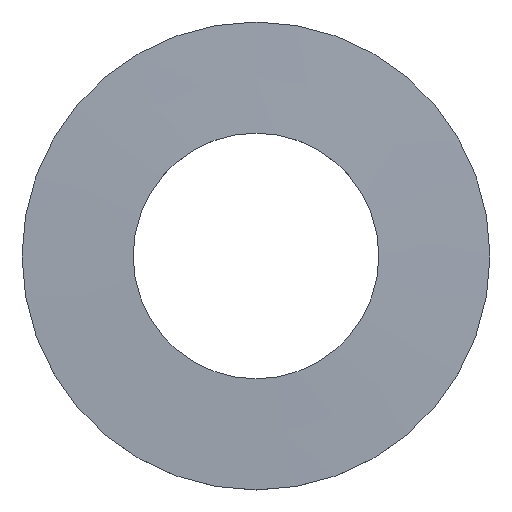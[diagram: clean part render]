
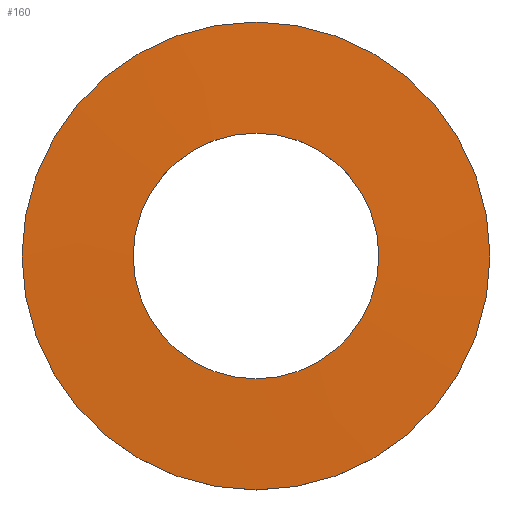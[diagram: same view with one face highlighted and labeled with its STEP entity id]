
A CAD part, top view. The second image highlights one B-rep face of the part: STEP entity #160.
In plain terms, the highlighted conical face has half-angle 88.116 degrees and reference radius 4 mm.
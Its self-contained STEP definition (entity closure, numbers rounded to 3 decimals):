
#43 = CYLINDRICAL_SURFACE('',#44,2.1);
#44 = AXIS2_PLACEMENT_3D('',#45,#46,#47);
#45 = CARTESIAN_POINT('',(-9.873,-5.7,4.813));
#46 = DIRECTION('',(0.,0.,-1.));
#47 = DIRECTION('',(-0.866,-0.5,0.));
#93 = CYLINDRICAL_SURFACE('',#94,4.);
#94 = AXIS2_PLACEMENT_3D('',#95,#96,#97);
#95 = CARTESIAN_POINT('',(-9.873,-5.7,4.45));
#96 = DIRECTION('',(0.,0.,1.));
#97 = DIRECTION('',(-0.866,-0.5,0.));
#111 = VERTEX_POINT('',#112);
#112 = CARTESIAN_POINT('',(-13.337,-7.7,4.75));
#133 = EDGE_CURVE('',#111,#111,#134,.T.);
#134 = SURFACE_CURVE('',#135,(#140,#147),.PCURVE_S1.);
#135 = CIRCLE('',#136,4.);
#136 = AXIS2_PLACEMENT_3D('',#137,#138,#139);
#137 = CARTESIAN_POINT('',(-9.873,-5.7,4.75));
#138 = DIRECTION('',(0.,0.,1.));
#139 = DIRECTION('',(-0.866,-0.5,0.));
#140 = PCURVE('',#93,#141);
#141 = DEFINITIONAL_REPRESENTATION('',(#142),#146);
#142 = LINE('',#143,#144);
#143 = CARTESIAN_POINT('',(0.,0.3));
#144 = VECTOR('',#145,1.);
#145 = DIRECTION('',(1.,0.));
#146 = ( GEOMETRIC_REPRESENTATION_CONTEXT(2) 
PARAMETRIC_REPRESENTATION_CONTEXT() REPRESENTATION_CONTEXT('2D SPACE',''
  ) );
#147 = PCURVE('',#148,#153);
#148 = CONICAL_SURFACE('',#149,4.,1.538);
#149 = AXIS2_PLACEMENT_3D('',#150,#151,#152);
#150 = CARTESIAN_POINT('',(-9.873,-5.7,4.75));
#151 = DIRECTION('',(-0.,-0.,-1.));
#152 = DIRECTION('',(-0.866,-0.5,0.));
#153 = DEFINITIONAL_REPRESENTATION('',(#154),#158);
#154 = LINE('',#155,#156);
#155 = CARTESIAN_POINT('',(-0.,-0.));
#156 = VECTOR('',#157,1.);
#157 = DIRECTION('',(-1.,-0.));
#158 = ( GEOMETRIC_REPRESENTATION_CONTEXT(2) 
PARAMETRIC_REPRESENTATION_CONTEXT() REPRESENTATION_CONTEXT('2D SPACE',''
  ) );
#160 = ADVANCED_FACE('',(#161),#148,.T.);
#161 = FACE_BOUND('',#162,.T.);
#162 = EDGE_LOOP('',(#163,#164,#187,#209));
#163 = ORIENTED_EDGE('',*,*,#133,.T.);
#164 = ORIENTED_EDGE('',*,*,#165,.T.);
#165 = EDGE_CURVE('',#111,#166,#168,.T.);
#166 = VERTEX_POINT('',#167);
#167 = CARTESIAN_POINT('',(-11.691,-6.75,4.813));
#168 = SEAM_CURVE('',#169,(#173,#180),.PCURVE_S1.);
#169 = LINE('',#170,#171);
#170 = CARTESIAN_POINT('',(-13.337,-7.7,4.75));
#171 = VECTOR('',#172,1.);
#172 = DIRECTION('',(0.866,0.5,0.033));
#173 = PCURVE('',#148,#174);
#174 = DEFINITIONAL_REPRESENTATION('',(#175),#179);
#175 = LINE('',#176,#177);
#176 = CARTESIAN_POINT('',(-0.,-0.));
#177 = VECTOR('',#178,1.);
#178 = DIRECTION('',(-0.,-1.));
#179 = ( GEOMETRIC_REPRESENTATION_CONTEXT(2) 
PARAMETRIC_REPRESENTATION_CONTEXT() REPRESENTATION_CONTEXT('2D SPACE',''
  ) );
#180 = PCURVE('',#148,#181);
#181 = DEFINITIONAL_REPRESENTATION('',(#182),#186);
#182 = LINE('',#183,#184);
#183 = CARTESIAN_POINT('',(-6.283,-0.));
#184 = VECTOR('',#185,1.);
#185 = DIRECTION('',(-0.,-1.));
#186 = ( GEOMETRIC_REPRESENTATION_CONTEXT(2) 
PARAMETRIC_REPRESENTATION_CONTEXT() REPRESENTATION_CONTEXT('2D SPACE',''
  ) );
#187 = ORIENTED_EDGE('',*,*,#188,.F.);
#188 = EDGE_CURVE('',#166,#166,#189,.T.);
#189 = SURFACE_CURVE('',#190,(#195,#202),.PCURVE_S1.);
#190 = CIRCLE('',#191,2.1);
#191 = AXIS2_PLACEMENT_3D('',#192,#193,#194);
#192 = CARTESIAN_POINT('',(-9.873,-5.7,4.813));
#193 = DIRECTION('',(0.,0.,1.));
#194 = DIRECTION('',(-0.866,-0.5,0.));
#195 = PCURVE('',#148,#196);
#196 = DEFINITIONAL_REPRESENTATION('',(#197),#201);
#197 = LINE('',#198,#199);
#198 = CARTESIAN_POINT('',(-0.,-0.063));
#199 = VECTOR('',#200,1.);
#200 = DIRECTION('',(-1.,-0.));
#201 = ( GEOMETRIC_REPRESENTATION_CONTEXT(2) 
PARAMETRIC_REPRESENTATION_CONTEXT() REPRESENTATION_CONTEXT('2D SPACE',''
  ) );
#202 = PCURVE('',#43,#203);
#203 = DEFINITIONAL_REPRESENTATION('',(#204),#208);
#204 = LINE('',#205,#206);
#205 = CARTESIAN_POINT('',(-0.,0.));
#206 = VECTOR('',#207,1.);
#207 = DIRECTION('',(-1.,0.));
#208 = ( GEOMETRIC_REPRESENTATION_CONTEXT(2) 
PARAMETRIC_REPRESENTATION_CONTEXT() REPRESENTATION_CONTEXT('2D SPACE',''
  ) );
#209 = ORIENTED_EDGE('',*,*,#165,.F.);
